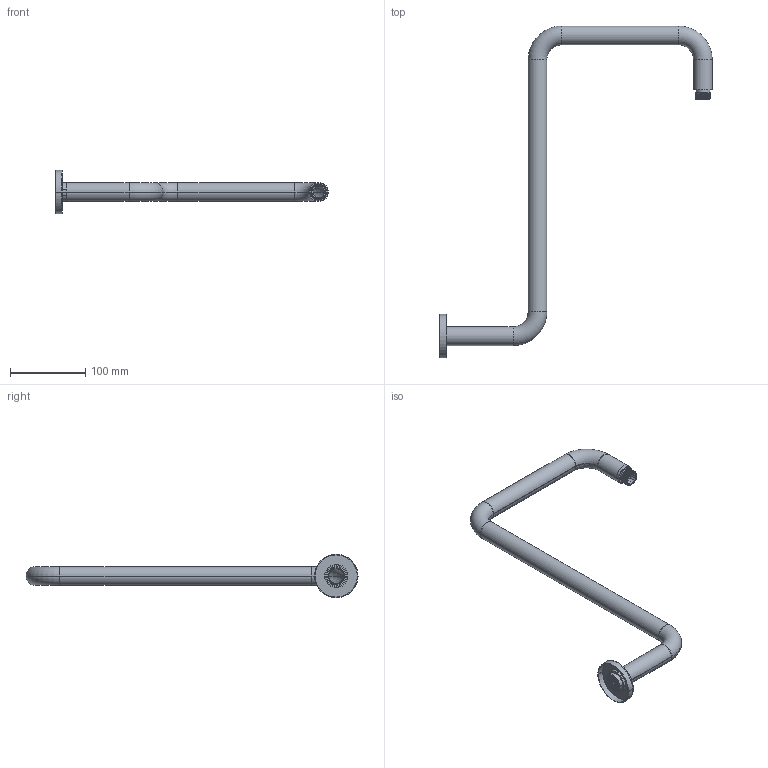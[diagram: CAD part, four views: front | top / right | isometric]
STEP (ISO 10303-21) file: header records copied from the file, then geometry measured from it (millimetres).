
FILE_DESCRIPTION((''),'2;1');
FILE_NAME('SB350_ASM','2021-07-23T',('Administrator'),(''),'PRO/ENGINEER BY PARAMETRIC TECHNOLOGY CORPORATION, 2009440','PRO/ENGINEER BY PARAMETRIC TECHNOLOGY CORPORATION, 2009440','');
FILE_SCHEMA(('CONFIG_CONTROL_DESIGN'));
Length unit declared in the file: millimetre
Products named in the file (8): WG; HGJ; A02; WG-ZJ_ASM; B01; B02; B01_ASM; SB350_ASM
Assembly tree (7 placements, depth 3):
  SB350_ASM
    WG-ZJ_ASM
      WG
      HGJ
      A02
    B01_ASM
      B01
      B02
Bounding box: 362.5 x 441.5 x 58 mm (x, y, z)
Volume: 66825.5 mm3; surface area: 132166.1 mm2
Topology: 5 solids, 5 shells, 124 faces, 286 edges, 176 vertices
Faces by surface type: cylinder 66, torus 20, bspline 18, plane 14, cone 6
Entity records: 9504 total; most frequent: CARTESIAN_POINT 6624, ORIENTED_EDGE 572, DIRECTION 558, EDGE_CURVE 286, AXIS2_PLACEMENT_3D 238, VERTEX_POINT 176, EDGE_LOOP 138, FACE_OUTER_BOUND 124
